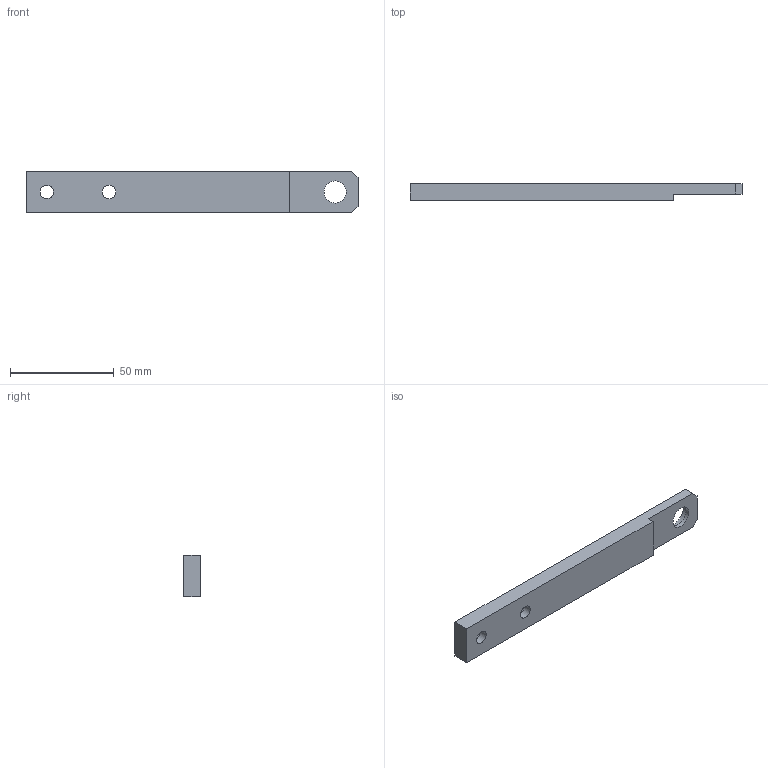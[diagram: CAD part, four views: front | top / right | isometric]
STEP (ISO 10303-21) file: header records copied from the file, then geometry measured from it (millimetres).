
FILE_DESCRIPTION (( 'STEP AP214' ), '1' );
FILE_NAME ('N20758.step', '2024-12-03T16:26:39', ( '' ), ( '' ), 'SwSTEP 2.0', 'SolidWorks 2023', '' );
FILE_SCHEMA (( 'AUTOMOTIVE_DESIGN' ));
Length unit declared in the file: millimetre
Products named in the file (1): N20758
Bounding box: 160 x 8 x 20 mm (x, y, z)
Volume: 22005.9 mm3; surface area: 9354.2 mm2
Topology: 1 solids, 1 shells, 19 faces, 42 edges, 28 vertices
Faces by surface type: plane 13, cylinder 6
Full cylindrical faces by diameter (mm): 6.5 x2, 10.5 x2, 10.75 x1, 13.5 x1
Entity records: 533 total; most frequent: DIRECTION 88, CARTESIAN_POINT 84, ORIENTED_EDGE 72, EDGE_CURVE 36, EDGE_LOOP 34, AXIS2_PLACEMENT_3D 32, VERTEX_POINT 28, FACE_OUTER_BOUND 25
